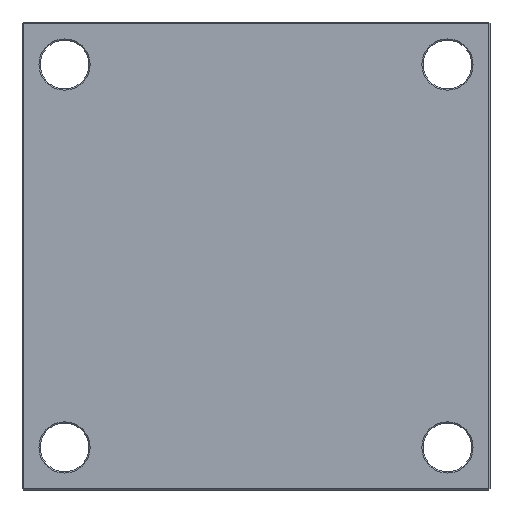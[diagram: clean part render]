
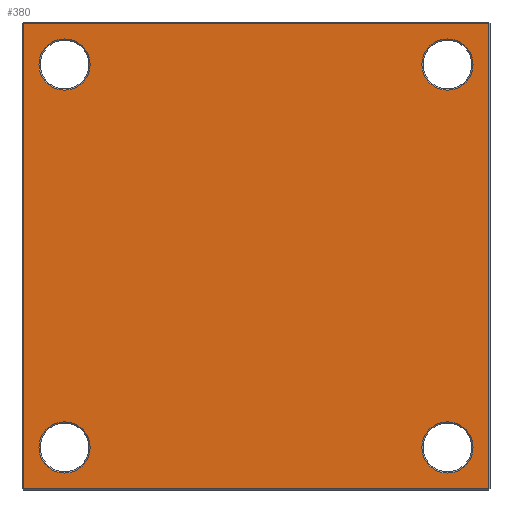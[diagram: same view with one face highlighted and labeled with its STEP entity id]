
A CAD part, front view. The second image highlights one B-rep face of the part: STEP entity #380.
In plain terms, the highlighted planar face has unit normal (0, -1, 0).
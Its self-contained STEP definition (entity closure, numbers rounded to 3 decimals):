
#20 = FACE_BOUND ( 'NONE', #1964, .T. ) ;
#31 = CARTESIAN_POINT ( 'NONE',  ( 162., 0., -162. ) ) ;
#50 = VERTEX_POINT ( 'NONE', #584 ) ;
#89 = CARTESIAN_POINT ( 'NONE',  ( -197., 0., -197. ) ) ;
#94 = EDGE_LOOP ( 'NONE', ( #673, #1073 ) ) ;
#194 = CARTESIAN_POINT ( 'NONE',  ( 0., 0., 197. ) ) ;
#199 = ORIENTED_EDGE ( 'NONE', *, *, #1770, .T. ) ;
#223 = VERTEX_POINT ( 'NONE', #89 ) ;
#280 = LINE ( 'NONE', #1698, #2056 ) ;
#306 = VERTEX_POINT ( 'NONE', #706 ) ;
#332 = VECTOR ( 'NONE', #2169, 1000. ) ;
#338 = CARTESIAN_POINT ( 'NONE',  ( 197., 0., 0. ) ) ;
#342 = CIRCLE ( 'NONE', #1805, 21.65 ) ;
#380 = ADVANCED_FACE ( 'NONE', ( #485, #1349, #1804, #20, #1748 ), #2004, .F. ) ;
#474 = ORIENTED_EDGE ( 'NONE', *, *, #1318, .T. ) ;
#485 = FACE_BOUND ( 'NONE', #94, .T. ) ;
#495 = LINE ( 'NONE', #194, #1200 ) ;
#537 = DIRECTION ( 'NONE',  ( 0., 0., -1. ) ) ;
#556 = CARTESIAN_POINT ( 'NONE',  ( -162., 0., 183.65 ) ) ;
#557 = DIRECTION ( 'NONE',  ( 0., 1., 0. ) ) ;
#584 = CARTESIAN_POINT ( 'NONE',  ( 197., 0., -197. ) ) ;
#637 = VERTEX_POINT ( 'NONE', #1448 ) ;
#654 = CARTESIAN_POINT ( 'NONE',  ( -162., 0., -162. ) ) ;
#673 = ORIENTED_EDGE ( 'NONE', *, *, #1140, .T. ) ;
#706 = CARTESIAN_POINT ( 'NONE',  ( 197., 0., 197. ) ) ;
#732 = DIRECTION ( 'NONE',  ( 0., 1., 0. ) ) ;
#745 = VERTEX_POINT ( 'NONE', #1555 ) ;
#773 = VERTEX_POINT ( 'NONE', #1051 ) ;
#782 = LINE ( 'NONE', #338, #332 ) ;
#789 = CARTESIAN_POINT ( 'NONE',  ( 162., 0., -183.65 ) ) ;
#806 = ORIENTED_EDGE ( 'NONE', *, *, #892, .T. ) ;
#844 = CIRCLE ( 'NONE', #1898, 21.65 ) ;
#850 = VERTEX_POINT ( 'NONE', #1014 ) ;
#863 = DIRECTION ( 'NONE',  ( 0., 0., 1. ) ) ;
#892 = EDGE_CURVE ( 'NONE', #745, #1522, #1282, .T. ) ;
#893 = EDGE_CURVE ( 'NONE', #1156, #2026, #342, .T. ) ;
#909 = ORIENTED_EDGE ( 'NONE', *, *, #1154, .T. ) ;
#911 = VERTEX_POINT ( 'NONE', #556 ) ;
#913 = DIRECTION ( 'NONE',  ( 0., 0., 1. ) ) ;
#970 = CARTESIAN_POINT ( 'NONE',  ( -162., 0., -162. ) ) ;
#985 = DIRECTION ( 'NONE',  ( 0., 1., 0. ) ) ;
#1004 = DIRECTION ( 'NONE',  ( 1., 0., 0. ) ) ;
#1009 = DIRECTION ( 'NONE',  ( 0., 0., 1. ) ) ;
#1014 = CARTESIAN_POINT ( 'NONE',  ( -197., 0., 197. ) ) ;
#1051 = CARTESIAN_POINT ( 'NONE',  ( 162., 0., 183.65 ) ) ;
#1073 = ORIENTED_EDGE ( 'NONE', *, *, #893, .T. ) ;
#1140 = EDGE_CURVE ( 'NONE', #2026, #1156, #1332, .T. ) ;
#1154 = EDGE_CURVE ( 'NONE', #1522, #745, #844, .T. ) ;
#1156 = VERTEX_POINT ( 'NONE', #1213 ) ;
#1172 = VECTOR ( 'NONE', #1004, 1000. ) ;
#1174 = EDGE_CURVE ( 'NONE', #1667, #773, #1226, .T. ) ;
#1187 = ORIENTED_EDGE ( 'NONE', *, *, #1225, .T. ) ;
#1192 = EDGE_CURVE ( 'NONE', #637, #911, #1564, .T. ) ;
#1200 = VECTOR ( 'NONE', #2153, 1000. ) ;
#1209 = EDGE_LOOP ( 'NONE', ( #1692, #1187 ) ) ;
#1213 = CARTESIAN_POINT ( 'NONE',  ( -162., 0., -140.35 ) ) ;
#1221 = EDGE_CURVE ( 'NONE', #850, #223, #280, .T. ) ;
#1225 = EDGE_CURVE ( 'NONE', #773, #1667, #1456, .T. ) ;
#1226 = CIRCLE ( 'NONE', #1911, 21.65 ) ;
#1229 = CARTESIAN_POINT ( 'NONE',  ( 162., 0., -162. ) ) ;
#1236 = DIRECTION ( 'NONE',  ( 0., 1., 0. ) ) ;
#1240 = CARTESIAN_POINT ( 'NONE',  ( -162., 0., 162. ) ) ;
#1245 = DIRECTION ( 'NONE',  ( 0., 0., 1. ) ) ;
#1282 = CIRCLE ( 'NONE', #1803, 21.65 ) ;
#1318 = EDGE_CURVE ( 'NONE', #306, #850, #495, .T. ) ;
#1332 = CIRCLE ( 'NONE', #1895, 21.65 ) ;
#1339 = ORIENTED_EDGE ( 'NONE', *, *, #1192, .T. ) ;
#1349 = FACE_BOUND ( 'NONE', #1387, .T. ) ;
#1355 = CARTESIAN_POINT ( 'NONE',  ( 162., 0., 162. ) ) ;
#1365 = DIRECTION ( 'NONE',  ( 0., 1., 0. ) ) ;
#1376 = DIRECTION ( 'NONE',  ( 0., 0., 1. ) ) ;
#1387 = EDGE_LOOP ( 'NONE', ( #909, #806 ) ) ;
#1407 = CARTESIAN_POINT ( 'NONE',  ( 162., 0., 140.35 ) ) ;
#1415 = CARTESIAN_POINT ( 'NONE',  ( 0., 0., -197. ) ) ;
#1448 = CARTESIAN_POINT ( 'NONE',  ( -162., 0., 140.35 ) ) ;
#1456 = CIRCLE ( 'NONE', #1928, 21.65 ) ;
#1492 = ORIENTED_EDGE ( 'NONE', *, *, #1221, .T. ) ;
#1522 = VERTEX_POINT ( 'NONE', #789 ) ;
#1543 = EDGE_LOOP ( 'NONE', ( #1912, #474, #1492, #199 ) ) ;
#1547 = AXIS2_PLACEMENT_3D ( 'NONE', #1975, #2029, #2036 ) ;
#1555 = CARTESIAN_POINT ( 'NONE',  ( 162., 0., -140.35 ) ) ;
#1564 = CIRCLE ( 'NONE', #1920, 21.65 ) ;
#1618 = LINE ( 'NONE', #1415, #1172 ) ;
#1622 = CARTESIAN_POINT ( 'NONE',  ( -162., 0., 162. ) ) ;
#1641 = DIRECTION ( 'NONE',  ( 0., 1., 0. ) ) ;
#1642 = EDGE_CURVE ( 'NONE', #911, #637, #2134, .T. ) ;
#1643 = DIRECTION ( 'NONE',  ( 0., 0., 1. ) ) ;
#1667 = VERTEX_POINT ( 'NONE', #1407 ) ;
#1692 = ORIENTED_EDGE ( 'NONE', *, *, #1174, .T. ) ;
#1698 = CARTESIAN_POINT ( 'NONE',  ( -197., 0., 0. ) ) ;
#1748 = FACE_OUTER_BOUND ( 'NONE', #1543, .T. ) ;
#1749 = EDGE_CURVE ( 'NONE', #50, #306, #782, .T. ) ;
#1770 = EDGE_CURVE ( 'NONE', #223, #50, #1618, .T. ) ;
#1803 = AXIS2_PLACEMENT_3D ( 'NONE', #31, #732, #863 ) ;
#1804 = FACE_BOUND ( 'NONE', #1209, .T. ) ;
#1805 = AXIS2_PLACEMENT_3D ( 'NONE', #654, #557, #913 ) ;
#1832 = CARTESIAN_POINT ( 'NONE',  ( 162., 0., 162. ) ) ;
#1837 = DIRECTION ( 'NONE',  ( 0., 1., 0. ) ) ;
#1846 = DIRECTION ( 'NONE',  ( 0., 0., 1. ) ) ;
#1850 = ORIENTED_EDGE ( 'NONE', *, *, #1642, .T. ) ;
#1895 = AXIS2_PLACEMENT_3D ( 'NONE', #970, #985, #1009 ) ;
#1898 = AXIS2_PLACEMENT_3D ( 'NONE', #1229, #1236, #1245 ) ;
#1911 = AXIS2_PLACEMENT_3D ( 'NONE', #1355, #1365, #1376 ) ;
#1912 = ORIENTED_EDGE ( 'NONE', *, *, #1749, .T. ) ;
#1920 = AXIS2_PLACEMENT_3D ( 'NONE', #1622, #1641, #1643 ) ;
#1928 = AXIS2_PLACEMENT_3D ( 'NONE', #1832, #1837, #1846 ) ;
#1947 = AXIS2_PLACEMENT_3D ( 'NONE', #1240, #2107, #2052 ) ;
#1964 = EDGE_LOOP ( 'NONE', ( #1339, #1850 ) ) ;
#1975 = CARTESIAN_POINT ( 'NONE',  ( 0., 0., 0. ) ) ;
#1992 = CARTESIAN_POINT ( 'NONE',  ( -162., 0., -183.65 ) ) ;
#2004 = PLANE ( 'NONE',  #1547 ) ;
#2026 = VERTEX_POINT ( 'NONE', #1992 ) ;
#2029 = DIRECTION ( 'NONE',  ( 0., 1., 0. ) ) ;
#2036 = DIRECTION ( 'NONE',  ( 0., 0., 1. ) ) ;
#2052 = DIRECTION ( 'NONE',  ( 0., 0., 1. ) ) ;
#2056 = VECTOR ( 'NONE', #537, 1000. ) ;
#2107 = DIRECTION ( 'NONE',  ( 0., 1., 0. ) ) ;
#2134 = CIRCLE ( 'NONE', #1947, 21.65 ) ;
#2153 = DIRECTION ( 'NONE',  ( -1., 0., 0. ) ) ;
#2169 = DIRECTION ( 'NONE',  ( 0., 0., 1. ) ) ;
